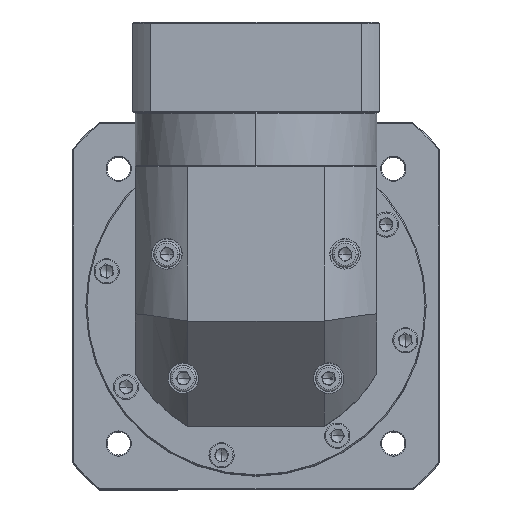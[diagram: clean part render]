
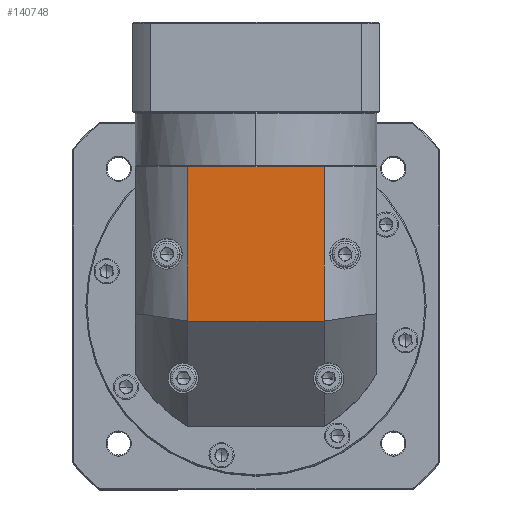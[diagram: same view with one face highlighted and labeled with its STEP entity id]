
A CAD part, top view. The second image highlights one B-rep face of the part: STEP entity #140748.
In plain terms, the highlighted planar face has unit normal (0, 0, 1).
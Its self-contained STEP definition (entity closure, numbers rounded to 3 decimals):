
#514 = CARTESIAN_POINT ( 'NONE',  ( -219.187, 84.772, 89.745 ) ) ;
#2989 = DIRECTION ( 'NONE',  ( 1., 0., 0. ) ) ;
#9899 = CARTESIAN_POINT ( 'NONE',  ( -129.288, 34.772, 89.745 ) ) ;
#11825 = ORIENTED_EDGE ( 'NONE', *, *, #52790, .F. ) ;
#12734 = DIRECTION ( 'NONE',  ( 0., 0., -1. ) ) ;
#13204 = PLANE ( 'NONE',  #48077 ) ;
#17576 = EDGE_CURVE ( 'NONE', #68946, #91161, #115097, .T. ) ;
#35509 = EDGE_CURVE ( 'NONE', #107267, #80740, #114092, .T. ) ;
#35722 = ORIENTED_EDGE ( 'NONE', *, *, #43446, .F. ) ;
#38403 = VECTOR ( 'NONE', #130210, 1000. ) ;
#39537 = DIRECTION ( 'NONE',  ( 1., 0., 0. ) ) ;
#41967 = LINE ( 'NONE', #9899, #38403 ) ;
#43446 = EDGE_CURVE ( 'NONE', #80740, #68946, #41967, .T. ) ;
#45070 = DIRECTION ( 'NONE',  ( -1., 0., 0. ) ) ;
#48077 = AXIS2_PLACEMENT_3D ( 'NONE', #56827, #12734, #2989 ) ;
#52790 = EDGE_CURVE ( 'NONE', #91161, #107267, #56401, .T. ) ;
#54725 = VECTOR ( 'NONE', #95886, 1000. ) ;
#56401 = LINE ( 'NONE', #142610, #54725 ) ;
#56827 = CARTESIAN_POINT ( 'NONE',  ( -161.687, 92.272, 89.745 ) ) ;
#62025 = VECTOR ( 'NONE', #39537, 1000. ) ;
#63077 = CARTESIAN_POINT ( 'NONE',  ( -129.288, 158.172, 89.745 ) ) ;
#68946 = VERTEX_POINT ( 'NONE', #92582 ) ;
#71338 = CARTESIAN_POINT ( 'NONE',  ( -194.087, 158.172, 89.745 ) ) ;
#80740 = VERTEX_POINT ( 'NONE', #63077 ) ;
#91161 = VERTEX_POINT ( 'NONE', #100439 ) ;
#92582 = CARTESIAN_POINT ( 'NONE',  ( -129.288, 84.772, 89.745 ) ) ;
#95886 = DIRECTION ( 'NONE',  ( 0., 1., 0. ) ) ;
#100439 = CARTESIAN_POINT ( 'NONE',  ( -194.087, 84.772, 89.745 ) ) ;
#107267 = VERTEX_POINT ( 'NONE', #71338 ) ;
#114092 = LINE ( 'NONE', #130299, #62025 ) ;
#115097 = LINE ( 'NONE', #514, #141281 ) ;
#117073 = ORIENTED_EDGE ( 'NONE', *, *, #17576, .F. ) ;
#130210 = DIRECTION ( 'NONE',  ( 0., -1., 0. ) ) ;
#130299 = CARTESIAN_POINT ( 'NONE',  ( -219.187, 158.172, 89.745 ) ) ;
#136193 = ORIENTED_EDGE ( 'NONE', *, *, #35509, .F. ) ;
#137004 = EDGE_LOOP ( 'NONE', ( #11825, #117073, #35722, #136193 ) ) ;
#140748 = ADVANCED_FACE ( 'NONE', ( #140776 ), #13204, .F. ) ;
#140776 = FACE_OUTER_BOUND ( 'NONE', #137004, .T. ) ;
#141281 = VECTOR ( 'NONE', #45070, 1000. ) ;
#142610 = CARTESIAN_POINT ( 'NONE',  ( -194.087, 34.772, 89.745 ) ) ;
